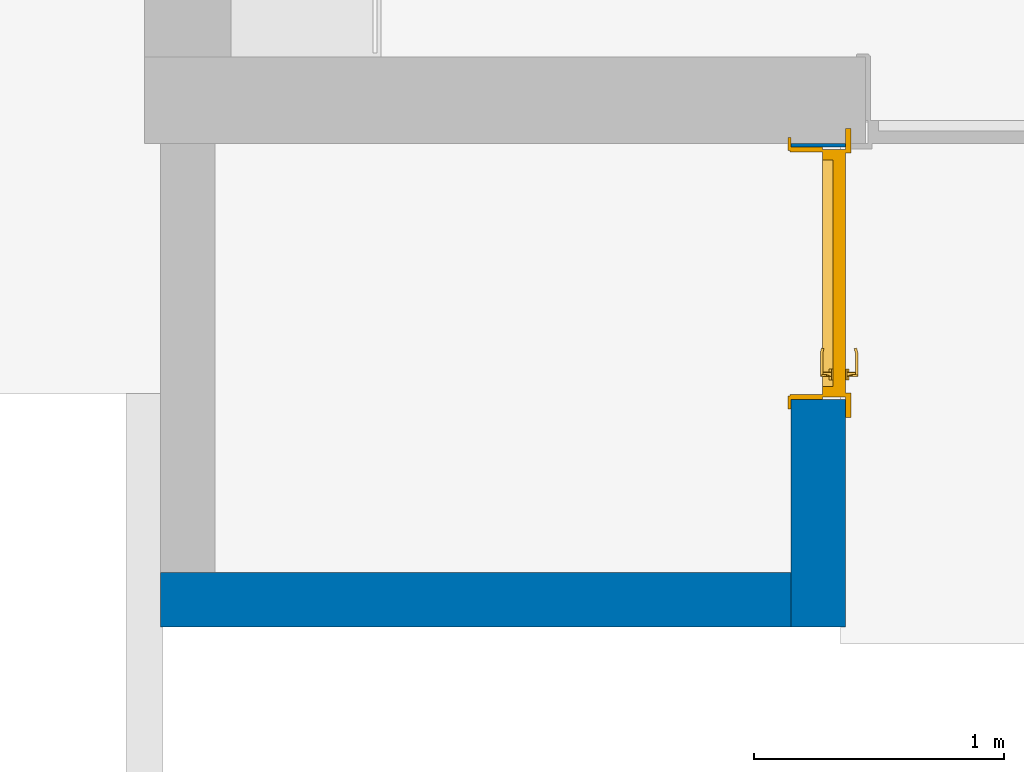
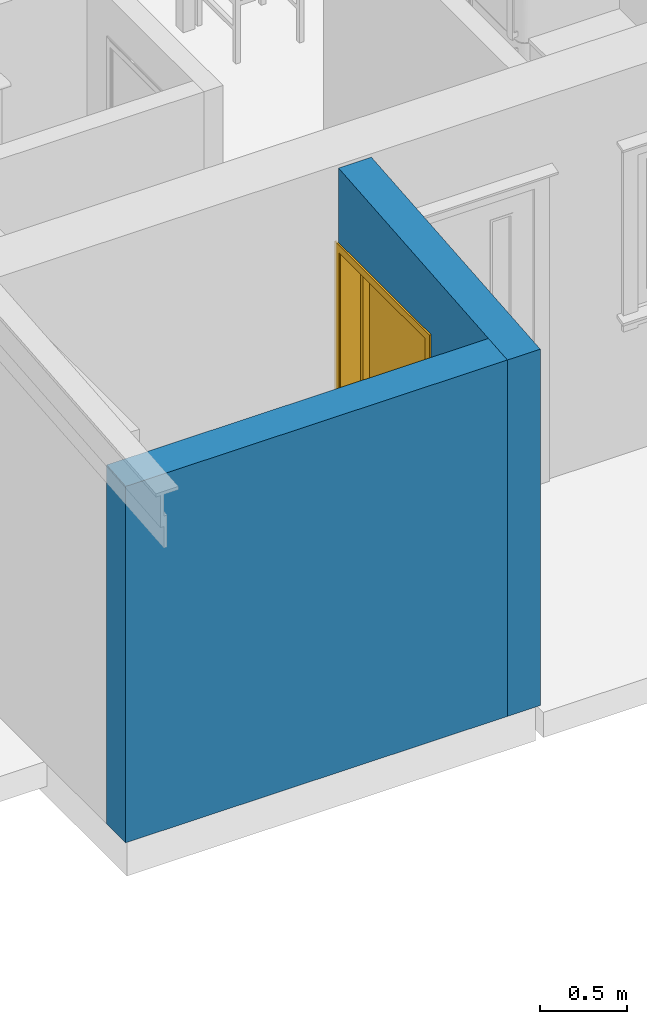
# One storey, part 10 of 65: 2 walls, 1 door, 1 opening.
"""IFC2X3 building model written with IfcOpenShell, lengths in millimetres."""

from ifc_helpers import new_model, entity, si_unit, converted_unit, direction, frame, frame_2d, origin, place, context, subcontext, project, spatial, polyline, rectangle, extrude, clip, bounded_halfspace, faceted_brep, source, transform, mapped, material, material_list, layer, layer_set, layer_usage, type_object, type_shapes, element, fill, save


model = new_model("IFC2X3")

# Units and contexts
model_context = context("Model", 3, precision=0.01, world=origin(), true_north=direction((0.0, 1.0)))
body_context = subcontext(model_context, "Body", "Model", "MODEL_VIEW")
ifc_project = project(units=[si_unit("LENGTHUNIT", "METRE", prefix="MILLI"), si_unit("AREAUNIT", "SQUARE_METRE"), si_unit("VOLUMEUNIT", "CUBIC_METRE"), converted_unit("PLANEANGLEUNIT", "DEGREE", entity("IfcPlaneAngleMeasure", 0.017453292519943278), si_unit("PLANEANGLEUNIT", "RADIAN"), dimensions=[0, 0, 0, 0, 0, 0, 0])], contexts=[model_context])

# Site, building, storey
site_placement = place(None, origin())
site = spatial("IfcSite", under=ifc_project, at=site_placement, Name="Default", CompositionType="ELEMENT")
building_placement = place(site_placement, origin())
building = spatial("IfcBuilding", under=site, at=building_placement, CompositionType="ELEMENT")
storey_placement = place(building_placement, origin())
storey = spatial("IfcBuildingStorey", under=building, at=storey_placement, Name="Et. 1", CompositionType="ELEMENT", Elevation=0.0)

# Wall, opening, door
ifc_material_1 = material(Name="Vegg - Stående Kledning_smal - HVIT")
ifc_layer_1 = layer(ifc_material_1, 19.0)
ifc_material_2 = material(Name="Vegg - Stender - Isolert")
ifc_layer_2 = layer(ifc_material_2, 198.0)
ifc_layer_set = layer_set([ifc_layer_1, ifc_layer_2], Name="Basic Wall:23-Kv(sm)TIG-19_Bod")
ifc_layer_usage_1 = layer_usage(ifc_layer_set, "AXIS2", "NEGATIVE", 108.5)
wall_type = type_object("IfcWallType", Name="Basic Wall:23-Kv(sm)TIG-19_Bod", PredefinedType="STANDARD", material=ifc_layer_set)
wall_1_placement = place(storey_placement, frame((24699.00958675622, 9408.18095768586, 0.0), z_axis=(0.0, 0.0, 1.0), x_axis=(0.0, -1.0, 0.0)))
wall_1 = element("IfcWallStandardCase", 1, at=wall_1_placement, inside=storey, type_object=wall_type, material=ifc_layer_usage_1, Name="Basic Wall:23-Kv(sm)TIG-19_Bod", context=body_context, shape_type="Clipping", body=[
    clip(extrude(rectangle(XDim=1932.0000000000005, YDim=216.9999999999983, at=frame_2d((966.0000000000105, 2.0463630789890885e-12), x_axis=(1.0, 0.0))), origin(), (0.0, 0.0, 1.0), 2657.639611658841), bounded_halfspace(frame((0.0, -108.4999999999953, 2657.639611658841), z_axis=(0.08715574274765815, 0.0, 0.9961946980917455), x_axis=(0.0, 1.0, 0.0)), False, frame((0.0, -108.4999999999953, 2657.639611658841)), polyline([(0.0, 0.0), (1715.0, 0.0), (1932.0, 0.0), (1932.0, 217.0), (0.0, 217.0), (0.0, 0.0)]))),
])
opening_placement = place(wall_1_placement, frame((13.0, -108.50000000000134, 0.0)))
opening = element("IfcOpeningElement", 2, at=opening_placement, cuts=wall_1, Name="YD Hel omramming:10x21M:1", ObjectType="Opening", context=body_context, shape_type="SweptSolid", body=[
    extrude(rectangle(XDim=1010.00000000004, YDim=2100.0000000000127, at=frame_2d((1050.0000000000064, 505.00000000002), x_axis=(0.0, -1.0))), frame((0.0, 0.0, 0.0), z_axis=(0.0, 1.0, 0.0), x_axis=(0.0, 0.0, 1.0)), (0.0, 0.0, 1.0), 217.0),
])
ifc_material_3 = material(Name="Karm")
ifc_material_4 = material(Name="Dør - Håndtak")
ifc_material_5 = material(Name="Dør - Dørblad")
ifc_material_6 = material(Name="Dør - Terskel - Eik")
ifc_material_list = material_list([ifc_material_3, ifc_material_4, ifc_material_5, ifc_material_6])
door_style = type_object("IfcDoorStyle", Name="YD Hel omramming:10x21M", ConstructionType="NOTDEFINED", OperationType="SINGLE_SWING_LEFT", ParameterTakesPrecedence=False, Sizeable=False, material=ifc_material_list)
shared_shape = source(origin(), body_context, "Body", "Brep", [
    faceted_brep([(1113.0, 284.5268751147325, 2160.8011105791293), (1113.0, 289.44443697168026, 2179.153701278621), (1113.0, 217.0, 2198.56512966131), (1113.0, 217.0, 2178.894882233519), (-103.0, 284.5268751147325, 2160.8011105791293), (-103.0, 217.0, 2178.894882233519), (-103.0, 217.0, 2198.56512966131), (-103.0, 289.44443697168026, 2179.153701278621)], [[[0, 1, 2, 3]], [[4, 5, 6, 7]], [[1, 0, 4, 7]], [[2, 1, 7, 6]], [[3, 2, 6, 5]], [[0, 3, 5, 4]]]),
    faceted_brep([(25.0, 239.0, 2173.0), (985.0, 239.0, 2173.0), (985.0, 239.0, 2075.0), (25.0, 239.0, 2075.0), (25.0, 217.0, 2173.0), (25.0, 217.0, 2075.0), (985.0, 217.0, 2075.0), (985.0, 217.0, 2173.0)], [[[0, 1, 2, 3]], [[4, 5, 6, 7]], [[1, 0, 4, 7]], [[2, 1, 7, 6]], [[3, 2, 6, 5]], [[0, 3, 5, 4]]]),
    faceted_brep([(-73.0, 239.0, 2179.153701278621), (25.0, 239.0, 2179.153701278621), (25.0, 239.0, 0.0), (-73.0, 239.0, 0.0), (-73.0, 217.0, 2179.153701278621), (25.0, 217.0, 2179.153701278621), (25.0, 217.0, 0.0), (-73.0, 217.0, 0.0)], [[[0, 1, 2, 3]], [[1, 0, 4, 5]], [[2, 1, 5, 6]], [[3, 2, 6, 7]], [[0, 3, 7, 4]], [[4, 7, 6, 5]]]),
    faceted_brep([(985.0, 217.0, 2179.153701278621), (985.0, 217.0, 0.0), (1083.0, 217.0, 0.0), (1083.0, 217.0, 2179.153701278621), (1083.0, 239.0, 2179.153701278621), (985.0, 239.0, 2179.153701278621), (1083.0, 239.0, 0.0), (985.0, 239.0, 0.0)], [[[0, 1, 2, 3]], [[4, 5, 0, 3]], [[6, 4, 3, 2]], [[7, 6, 2, 1]], [[5, 7, 1, 0]], [[5, 4, 6, 7]]]),
    faceted_brep([(910.0, 117.0, 1061.0), (822.4876577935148, 117.0, 1061.0), (804.4308821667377, 121.8382984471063, 1061.0), (807.019072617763, 131.49755670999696, 1061.0), (823.8041827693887, 127.0, 1061.0), (910.0, 127.0, 1061.0), (907.6706285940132, 127.0, 1061.306667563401), (823.8041827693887, 127.0, 1079.0), (910.0, 127.0, 1079.0), (907.6706285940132, 127.0, 1078.6933324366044), (905.499999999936, 127.0, 1077.7942286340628), (903.636038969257, 127.0, 1076.3639610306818), (902.205771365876, 127.0, 1074.500000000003), (901.3066675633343, 127.0, 1072.3293714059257), (901.0, 127.0, 1070.0), (901.3066675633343, 127.0, 1067.6706285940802), (902.205771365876, 127.0, 1065.5000000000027), (903.636038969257, 127.0, 1063.6360389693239), (905.499999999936, 127.0, 1062.2057713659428), (910.0, 117.0, 1079.0), (807.019072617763, 131.49755670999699, 1079.0), (804.4308821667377, 121.83829844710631, 1079.0), (822.4876577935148, 117.0, 1079.0), (919.0, 117.0, 1070.0), (918.7739335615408, 117.0, 1072.0045173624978), (918.1082066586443, 117.0, 1073.9060190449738), (917.0361879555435, 117.0, 1075.6117785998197), (915.6117785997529, 117.0, 1077.0361879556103), (913.9060190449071, 117.0, 1078.1082066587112), (912.0038376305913, 117.0, 1078.7740888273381), (912.0038376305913, 117.0, 1061.2259111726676), (913.9060190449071, 117.0, 1061.8917933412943), (915.6117785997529, 117.0, 1062.9638120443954), (917.0361879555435, 117.0, 1064.3882214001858), (918.1082066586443, 117.0, 1066.0939809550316), (918.7739335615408, 117.0, 1067.9954826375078), (918.6933324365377, 161.0, 1072.3293714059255), (919.0, 161.0, 1070.0), (917.7942286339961, 161.0, 1074.5000000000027), (916.3639610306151, 161.0, 1076.3639610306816), (914.4999999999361, 161.0, 1077.7942286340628), (912.3293714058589, 161.0, 1078.6933324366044), (907.6706285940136, 161.0, 1078.6933324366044), (910.0, 161.0, 1079.0), (905.4999999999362, 161.0, 1077.7942286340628), (903.6360389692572, 161.0, 1076.3639610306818), (902.2057713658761, 161.0, 1074.500000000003), (901.3066675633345, 161.0, 1072.3293714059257), (901.0, 161.0, 1070.0), (901.3066675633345, 161.0, 1067.67062859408), (902.2057713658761, 161.0, 1065.5000000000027), (903.6360389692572, 161.0, 1063.6360389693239), (905.4999999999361, 161.0, 1062.2057713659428), (907.6706285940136, 161.0, 1061.306667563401), (910.0, 161.0, 1061.0), (912.3293714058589, 161.0, 1061.306667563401), (914.4999999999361, 161.0, 1062.2057713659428), (916.363961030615, 161.0, 1063.6360389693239), (918.6933324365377, 161.0, 1067.6706285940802), (917.7942286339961, 161.0, 1065.500000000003), (899.0, 161.0, 1089.0525588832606), (894.443650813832, 161.0, 1085.556349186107), (904.3059810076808, 161.0, 1091.2503681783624), (910.0, 161.0, 1092.0), (915.6940189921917, 161.0, 1091.2503681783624), (921.0, 161.0, 1089.0525588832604), (925.5563491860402, 161.0, 1085.556349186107), (929.0525588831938, 161.0, 1081.0), (931.2503681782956, 161.0, 1075.6940189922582), (932.0, 161.0, 1070.0), (931.2503681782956, 161.0, 1064.3059810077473), (929.0525588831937, 161.0, 1059.0), (925.55634918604, 161.0, 1054.4436508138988), (921.0, 161.0, 1050.947441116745), (915.6940189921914, 161.0, 1048.7496318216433), (910.0, 161.0, 1048.0), (904.3059810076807, 161.0, 1048.7496318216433), (899.0, 161.0, 1050.9474411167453), (894.443650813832, 161.0, 1054.4436508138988), (890.9474411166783, 161.0, 1059.0), (888.7496318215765, 161.0, 1064.3059810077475), (888.0, 161.0, 1070.0), (888.7496318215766, 161.0, 1075.6940189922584), (890.9474411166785, 161.0, 1081.0), (904.3059810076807, 167.0, 1048.7496318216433), (899.0, 167.0, 1050.9474411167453), (894.443650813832, 167.0, 1054.4436508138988), (890.9474411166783, 167.0, 1059.0), (888.7496318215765, 167.0, 1064.3059810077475), (888.0, 167.0, 1070.0), (888.7496318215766, 167.0, 1075.6940189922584), (890.9474411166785, 167.0, 1081.0), (894.443650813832, 167.0, 1085.556349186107), (899.0, 167.0, 1089.0525588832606), (904.3059810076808, 167.0, 1091.2503681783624), (910.0, 167.0, 1092.0), (915.6940189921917, 167.0, 1091.2503681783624), (921.0, 167.0, 1089.0525588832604), (925.5563491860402, 167.0, 1085.556349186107), (929.0525588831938, 167.0, 1081.0), (931.2503681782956, 167.0, 1075.6940189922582), (932.0, 167.0, 1070.0), (931.2503681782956, 167.0, 1064.3059810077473), (929.0525588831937, 167.0, 1059.0), (925.55634918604, 167.0, 1054.4436508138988), (921.0, 167.0, 1050.947441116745), (915.6940189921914, 167.0, 1048.7496318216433), (910.0, 167.0, 1048.0)], [[[0, 1, 2, 3, 4, 5]], [[6, 5, 4, 7, 8, 9, 10, 11, 12, 13, 14, 15, 16, 17, 18]], [[19, 8, 7, 20, 21, 22]], [[23, 24, 25, 26, 27, 28, 29, 19, 22, 1, 0, 30, 31, 32, 33, 34, 35]], [[3, 2, 21, 20]], [[7, 4, 3, 20]], [[1, 22, 21, 2]], [[36, 24, 37]], [[36, 8, 25]], [[38, 39, 8]], [[40, 8, 39]], [[40, 41, 8]], [[38, 8, 36]], [[8, 19, 29]], [[36, 25, 24]], [[24, 23, 37]], [[8, 28, 27]], [[27, 26, 8]], [[8, 26, 25]], [[8, 29, 28]], [[42, 9, 8, 43]], [[44, 10, 9, 42]], [[12, 11, 45, 46]], [[46, 47, 13, 12]], [[44, 45, 11, 10]], [[48, 14, 13, 47]], [[43, 8, 41]], [[49, 15, 14, 48]], [[50, 16, 15, 49]], [[18, 17, 51, 52]], [[52, 53, 6, 18]], [[5, 6, 53, 54]], [[50, 51, 17, 16]], [[5, 30, 0]], [[55, 56, 5]], [[56, 57, 5]], [[58, 5, 59]], [[58, 34, 5]], [[5, 57, 59]], [[37, 35, 58]], [[31, 30, 5]], [[32, 31, 5]], [[34, 33, 5]], [[33, 32, 5]], [[58, 35, 34]], [[37, 23, 35]], [[55, 5, 54]], [[44, 42, 60]], [[61, 44, 60]], [[44, 61, 45]], [[42, 62, 60]], [[62, 42, 43]], [[62, 43, 63]], [[41, 63, 43]], [[63, 41, 64]], [[41, 40, 64]], [[65, 64, 40]], [[39, 65, 40]], [[65, 39, 66]], [[38, 66, 39]], [[67, 66, 38]], [[36, 67, 38]], [[68, 67, 36]], [[68, 36, 37]], [[68, 37, 69]], [[69, 37, 58]], [[69, 58, 70]], [[70, 58, 59]], [[70, 59, 71]], [[72, 71, 59]], [[72, 59, 57]], [[57, 73, 72]], [[57, 56, 73]], [[74, 73, 56]], [[55, 74, 56]], [[55, 75, 74]], [[75, 55, 54]], [[54, 76, 75]], [[53, 76, 54]], [[76, 53, 77]], [[52, 77, 53]], [[78, 77, 52]], [[78, 52, 51]], [[78, 51, 79]], [[79, 51, 50]], [[79, 50, 80]], [[49, 80, 50]], [[81, 80, 49]], [[49, 48, 81]], [[48, 82, 81]], [[82, 48, 47]], [[82, 47, 83]], [[47, 46, 83]], [[45, 83, 46]], [[61, 83, 45]], [[84, 85, 86, 87, 88, 89, 90, 91, 92, 93, 94, 95, 96, 97, 98, 99, 100, 101, 102, 103, 104, 105, 106, 107]], [[100, 68, 69, 101]], [[99, 67, 68, 100]], [[65, 66, 98, 97]], [[99, 98, 66, 67]], [[64, 65, 97, 96]], [[63, 64, 96, 95]], [[94, 62, 63, 95]], [[93, 60, 62, 94]], [[83, 61, 92, 91]], [[93, 92, 61, 60]], [[82, 83, 91, 90]], [[81, 82, 90, 89]], [[88, 80, 81, 89]], [[87, 79, 80, 88]], [[77, 78, 86, 85]], [[87, 86, 78, 79]], [[76, 77, 85, 84]], [[75, 76, 84, 107]], [[106, 74, 75, 107]], [[105, 73, 74, 106]], [[71, 72, 104, 103]], [[105, 104, 72, 73]], [[70, 71, 103, 102]], [[69, 70, 102, 101]]]),
    faceted_brep([(899.0, 152.0, 1019.0525588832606), (894.443650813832, 152.0, 1015.556349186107), (890.9474411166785, 152.0, 1011.0), (888.7496318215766, 152.0, 1005.6940189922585), (888.0, 152.0, 1000.0), (888.7496318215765, 152.0, 994.3059810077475), (890.9474411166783, 152.0, 989.0), (894.443650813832, 152.0, 984.4436508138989), (899.0, 152.0, 980.9474411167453), (904.3059810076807, 152.0, 978.7496318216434), (910.0, 152.0, 978.0), (915.6940189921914, 152.0, 978.7496318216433), (921.0, 152.0, 980.9474411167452), (925.55634918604, 152.0, 984.4436508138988), (929.0525588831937, 152.0, 989.0), (931.2503681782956, 152.0, 994.3059810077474), (932.0, 152.0, 1000.0), (931.2503681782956, 152.0, 1005.6940189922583), (929.0525588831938, 152.0, 1011.0), (925.5563491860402, 152.0, 1015.5563491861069), (921.0, 152.0, 1019.0525588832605), (915.6940189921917, 152.0, 1021.2503681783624), (910.0, 152.0, 1022.0), (904.3059810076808, 152.0, 1021.2503681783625), (915.6940189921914, 167.0, 978.7496318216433), (910.0, 167.0, 978.0), (904.3059810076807, 167.0, 978.7496318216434), (899.0, 167.0, 980.9474411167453), (894.443650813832, 167.0, 984.4436508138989), (890.9474411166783, 167.0, 989.0), (888.7496318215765, 167.0, 994.3059810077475), (888.0, 167.0, 1000.0), (888.7496318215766, 167.0, 1005.6940189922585), (890.9474411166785, 167.0, 1011.0), (894.443650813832, 167.0, 1015.556349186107), (899.0, 167.0, 1019.0525588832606), (904.3059810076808, 167.0, 1021.2503681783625), (910.0, 167.0, 1022.0), (915.6940189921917, 167.0, 1021.2503681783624), (921.0, 167.0, 1019.0525588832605), (925.5563491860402, 167.0, 1015.5563491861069), (929.0525588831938, 167.0, 1011.0), (931.2503681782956, 167.0, 1005.6940189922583), (932.0, 167.0, 1000.0), (931.2503681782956, 167.0, 994.3059810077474), (929.0525588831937, 167.0, 989.0), (925.55634918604, 167.0, 984.4436508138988), (921.0, 167.0, 980.9474411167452)], [[[0, 1, 2, 3, 4, 5, 6, 7, 8, 9, 10, 11, 12, 13, 14, 15, 16, 17, 18, 19, 20, 21, 22, 23]], [[24, 25, 26, 27, 28, 29, 30, 31, 32, 33, 34, 35, 36, 37, 38, 39, 40, 41, 42, 43, 44, 45, 46, 47]], [[42, 17, 16, 43]], [[41, 18, 17, 42]], [[20, 19, 40, 39]], [[41, 40, 19, 18]], [[21, 20, 39, 38]], [[22, 21, 38, 37]], [[36, 23, 22, 37]], [[35, 0, 23, 36]], [[2, 1, 34, 33]], [[35, 34, 1, 0]], [[3, 2, 33, 32]], [[4, 3, 32, 31]], [[30, 5, 4, 31]], [[29, 6, 5, 30]], [[8, 7, 28, 27]], [[29, 28, 7, 6]], [[9, 8, 27, 26]], [[10, 9, 26, 25]], [[24, 11, 10, 25]], [[47, 12, 11, 24]], [[14, 13, 46, 45]], [[46, 13, 12, 47]], [[15, 44, 43, 16]], [[15, 14, 45, 44]]]),
    faceted_brep([(899.0, 223.0, 1089.0525588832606), (907.6706285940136, 223.0, 1078.6933324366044), (905.4999999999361, 223.0, 1077.7942286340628), (894.443650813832, 223.0, 1085.556349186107), (904.3059810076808, 223.0, 1091.2503681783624), (910.0, 223.0, 1079.0), (910.0, 223.0, 1092.0), (912.3293714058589, 223.0, 1078.6933324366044), (915.6940189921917, 223.0, 1091.2503681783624), (914.4999999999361, 223.0, 1077.7942286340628), (921.0, 223.0, 1089.0525588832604), (916.363961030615, 223.0, 1076.3639610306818), (925.5563491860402, 223.0, 1085.556349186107), (917.7942286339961, 223.0, 1074.5000000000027), (929.0525588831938, 223.0, 1081.0), (918.6933324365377, 223.0, 1072.3293714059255), (931.2503681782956, 223.0, 1075.6940189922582), (919.0, 223.0, 1070.0), (932.0, 223.0, 1070.0), (918.6933324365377, 223.0, 1067.6706285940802), (931.2503681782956, 223.0, 1064.3059810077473), (917.7942286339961, 223.0, 1065.500000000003), (929.0525588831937, 223.0, 1059.0), (925.55634918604, 223.0, 1054.4436508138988), (916.363961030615, 223.0, 1063.6360389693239), (921.0, 223.0, 1050.947441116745), (914.4999999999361, 223.0, 1062.2057713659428), (915.6940189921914, 223.0, 1048.7496318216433), (912.3293714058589, 223.0, 1061.306667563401), (910.0, 223.0, 1048.0), (910.0, 223.0, 1061.0), (904.3059810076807, 223.0, 1048.7496318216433), (907.6706285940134, 223.0, 1061.306667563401), (899.0, 223.0, 1050.9474411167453), (905.4999999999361, 223.0, 1062.2057713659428), (894.443650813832, 223.0, 1054.4436508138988), (903.6360389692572, 223.0, 1063.6360389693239), (890.9474411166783, 223.0, 1059.0), (902.2057713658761, 223.0, 1065.5000000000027), (888.7496318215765, 223.0, 1064.3059810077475), (901.3066675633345, 223.0, 1067.67062859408), (888.0, 223.0, 1070.0), (901.0, 223.0, 1070.0), (888.7496318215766, 223.0, 1075.6940189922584), (901.3066675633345, 223.0, 1072.3293714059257), (890.9474411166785, 223.0, 1081.0), (903.6360389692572, 223.0, 1076.3639610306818), (902.2057713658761, 223.0, 1074.500000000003), (910.0, 217.0, 1048.0), (915.6940189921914, 217.0, 1048.7496318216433), (921.0, 217.0, 1050.947441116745), (925.55634918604, 217.0, 1054.4436508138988), (929.0525588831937, 217.0, 1059.0), (931.2503681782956, 217.0, 1064.3059810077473), (932.0, 217.0, 1070.0), (931.2503681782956, 217.0, 1075.6940189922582), (929.0525588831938, 217.0, 1081.0), (925.5563491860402, 217.0, 1085.556349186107), (921.0, 217.0, 1089.0525588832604), (915.6940189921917, 217.0, 1091.2503681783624), (910.0, 217.0, 1092.0), (904.3059810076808, 217.0, 1091.2503681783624), (899.0, 217.0, 1089.0525588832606), (894.443650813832, 217.0, 1085.556349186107), (890.9474411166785, 217.0, 1081.0), (888.7496318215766, 217.0, 1075.6940189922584), (888.0, 217.0, 1070.0), (888.7496318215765, 217.0, 1064.3059810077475), (890.9474411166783, 217.0, 1059.0), (894.443650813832, 217.0, 1054.4436508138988), (899.0, 217.0, 1050.9474411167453), (904.3059810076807, 217.0, 1048.7496318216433), (918.7739335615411, 267.0, 1072.0045173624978), (918.1082066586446, 267.0, 1073.9060190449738), (910.0, 257.0, 1079.0), (912.0038376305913, 267.0, 1078.7740888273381), (910.0, 267.0, 1079.0), (919.0, 267.0, 1070.0), (915.6117785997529, 267.0, 1077.0361879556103), (913.9060190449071, 267.0, 1078.1082066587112), (917.0361879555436, 267.0, 1075.61177859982), (907.6706285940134, 257.0, 1078.6933324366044), (905.499999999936, 257.0, 1077.7942286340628), (903.6360389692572, 257.0, 1076.3639610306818), (902.2057713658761, 257.0, 1074.500000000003), (901.3066675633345, 257.0, 1072.3293714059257), (901.0, 257.0, 1070.0), (901.3066675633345, 257.0, 1067.6706285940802), (902.205771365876, 257.0, 1065.5000000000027), (903.6360389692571, 257.0, 1063.6360389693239), (905.499999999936, 257.0, 1062.2057713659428), (907.6706285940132, 257.0, 1061.306667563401), (910.0, 257.0, 1061.0), (910.0, 267.0, 1061.0), (912.0038376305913, 267.0, 1061.2259111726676), (918.1082066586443, 267.0, 1066.0939809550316), (918.7739335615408, 267.0, 1067.9954826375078), (913.9060190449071, 267.0, 1061.8917933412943), (915.6117785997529, 267.0, 1062.9638120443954), (917.0361879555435, 267.0, 1064.3882214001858), (823.8041827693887, 257.0, 1061.0), (807.019072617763, 252.50244329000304, 1061.0), (804.4308821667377, 262.1617015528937, 1061.0), (822.4876577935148, 267.0, 1061.0), (823.8041827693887, 257.0, 1079.0), (822.4876577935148, 267.0, 1079.0), (804.4308821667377, 262.1617015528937, 1079.0), (807.019072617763, 252.50244329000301, 1079.0)], [[[0, 1, 2]], [[0, 2, 3]], [[0, 4, 1]], [[5, 1, 4]], [[6, 5, 4]], [[5, 6, 7]], [[8, 7, 6]], [[8, 9, 7]], [[9, 8, 10]], [[9, 10, 11]], [[12, 11, 10]], [[11, 12, 13]], [[13, 12, 14]], [[13, 14, 15]], [[15, 14, 16]], [[17, 15, 16]], [[18, 17, 16]], [[19, 17, 18]], [[20, 19, 18]], [[21, 19, 20]], [[22, 21, 20]], [[21, 22, 23]], [[24, 21, 23]], [[23, 25, 24]], [[25, 26, 24]], [[26, 25, 27]], [[26, 27, 28]], [[27, 29, 28]], [[30, 28, 29]], [[29, 31, 30]], [[30, 31, 32]], [[33, 32, 31]], [[32, 33, 34]], [[34, 33, 35]], [[36, 34, 35]], [[37, 36, 35]], [[38, 36, 37]], [[39, 38, 37]], [[38, 39, 40]], [[40, 39, 41]], [[41, 42, 40]], [[41, 43, 42]], [[44, 42, 43]], [[45, 44, 43]], [[46, 45, 3]], [[45, 47, 44]], [[47, 45, 46]], [[46, 3, 2]], [[48, 49, 50, 51, 52, 53, 54, 55, 56, 57, 58, 59, 60, 61, 62, 63, 64, 65, 66, 67, 68, 69, 70, 71]], [[54, 18, 16, 55]], [[55, 16, 14, 56]], [[58, 57, 12, 10]], [[12, 57, 56, 14]], [[59, 58, 10, 8]], [[59, 8, 6, 60]], [[60, 6, 4, 61]], [[61, 4, 0, 62]], [[64, 63, 3, 45]], [[3, 63, 62, 0]], [[65, 64, 45, 43]], [[65, 43, 41, 66]], [[66, 41, 39, 67]], [[67, 39, 37, 68]], [[70, 69, 35, 33]], [[35, 69, 68, 37]], [[71, 70, 33, 31]], [[71, 31, 29, 48]], [[48, 29, 27, 49]], [[49, 27, 25, 50]], [[52, 51, 23, 22]], [[23, 51, 50, 25]], [[53, 52, 22, 20]], [[53, 20, 18, 54]], [[17, 72, 15]], [[73, 74, 15]], [[74, 11, 13]], [[11, 74, 9]], [[74, 7, 9]], [[15, 74, 13]], [[75, 76, 74]], [[72, 73, 15]], [[17, 77, 72]], [[78, 79, 74]], [[74, 80, 78]], [[73, 80, 74]], [[79, 75, 74]], [[5, 74, 81, 1]], [[1, 81, 82, 2]], [[47, 46, 83, 84]], [[85, 44, 47, 84]], [[83, 46, 2, 82]], [[44, 85, 86, 42]], [[7, 74, 5]], [[42, 86, 87, 40]], [[40, 87, 88, 38]], [[34, 36, 89, 90]], [[91, 32, 34, 90]], [[30, 32, 91, 92]], [[89, 36, 38, 88]], [[93, 94, 92]], [[92, 26, 28]], [[92, 24, 26]], [[21, 92, 19]], [[92, 95, 19]], [[21, 24, 92]], [[19, 96, 17]], [[92, 94, 97]], [[92, 97, 98]], [[92, 99, 95]], [[92, 98, 99]], [[95, 96, 19]], [[96, 77, 17]], [[30, 92, 28]], [[92, 100, 101, 102, 103, 93]], [[100, 92, 91, 90, 89, 88, 87, 86, 85, 84, 83, 82, 81, 74, 104]], [[104, 74, 76, 105, 106, 107]], [[106, 102, 101, 107]], [[101, 100, 104, 107]], [[106, 105, 103, 102]], [[73, 72, 77, 96, 95, 99, 98, 97, 94, 93, 103, 105, 76, 75, 79, 78, 80]]]),
    faceted_brep([(904.3059810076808, 232.0, 1021.2503681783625), (910.0, 232.0, 1022.0), (915.6940189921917, 232.0, 1021.2503681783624), (921.0, 232.0, 1019.0525588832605), (925.5563491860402, 232.0, 1015.5563491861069), (929.0525588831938, 232.0, 1011.0), (931.2503681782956, 232.0, 1005.6940189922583), (932.0, 232.0, 1000.0), (931.2503681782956, 232.0, 994.3059810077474), (929.0525588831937, 232.0, 989.0), (925.55634918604, 232.0, 984.4436508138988), (921.0, 232.0, 980.9474411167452), (915.6940189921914, 232.0, 978.7496318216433), (910.0, 232.0, 978.0), (904.3059810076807, 232.0, 978.7496318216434), (899.0, 232.0, 980.9474411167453), (894.443650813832, 232.0, 984.4436508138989), (890.9474411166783, 232.0, 989.0), (888.7496318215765, 232.0, 994.3059810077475), (888.0, 232.0, 1000.0), (888.7496318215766, 232.0, 1005.6940189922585), (890.9474411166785, 232.0, 1011.0), (894.443650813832, 232.0, 1015.556349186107), (899.0, 232.0, 1019.0525588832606), (904.3059810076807, 217.0, 978.7496318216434), (910.0, 217.0, 978.0), (915.6940189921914, 217.0, 978.7496318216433), (921.0, 217.0, 980.9474411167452), (925.55634918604, 217.0, 984.4436508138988), (929.0525588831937, 217.0, 989.0), (931.2503681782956, 217.0, 994.3059810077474), (932.0, 217.0, 1000.0), (931.2503681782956, 217.0, 1005.6940189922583), (929.0525588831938, 217.0, 1011.0), (925.5563491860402, 217.0, 1015.5563491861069), (921.0, 217.0, 1019.0525588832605), (915.6940189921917, 217.0, 1021.2503681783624), (910.0, 217.0, 1022.0), (904.3059810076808, 217.0, 1021.2503681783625), (899.0, 217.0, 1019.0525588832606), (894.443650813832, 217.0, 1015.556349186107), (890.9474411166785, 217.0, 1011.0), (888.7496318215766, 217.0, 1005.6940189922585), (888.0, 217.0, 1000.0), (888.7496318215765, 217.0, 994.3059810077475), (890.9474411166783, 217.0, 989.0), (894.443650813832, 217.0, 984.4436508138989), (899.0, 217.0, 980.9474411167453)], [[[0, 1, 2, 3, 4, 5, 6, 7, 8, 9, 10, 11, 12, 13, 14, 15, 16, 17, 18, 19, 20, 21, 22, 23]], [[24, 25, 26, 27, 28, 29, 30, 31, 32, 33, 34, 35, 36, 37, 38, 39, 40, 41, 42, 43, 44, 45, 46, 47]], [[31, 7, 6, 32]], [[32, 6, 5, 33]], [[35, 34, 4, 3]], [[4, 34, 33, 5]], [[36, 35, 3, 2]], [[36, 2, 1, 37]], [[37, 1, 0, 38]], [[38, 0, 23, 39]], [[41, 40, 22, 21]], [[22, 40, 39, 23]], [[42, 41, 21, 20]], [[42, 20, 19, 43]], [[43, 19, 18, 44]], [[44, 18, 17, 45]], [[47, 46, 16, 15]], [[16, 46, 45, 17]], [[24, 47, 15, 14]], [[24, 14, 13, 25]], [[25, 13, 12, 26]], [[26, 12, 11, 27]], [[29, 28, 10, 9]], [[27, 11, 10, 28]], [[7, 31, 30, 8]], [[29, 9, 8, 30]]]),
    faceted_brep([(958.0, 217.0, 0.0), (1000.0, 217.0, 0.0), (1000.0, 125.0, 0.0), (958.0, 125.0, 0.0), (958.0, 217.0, 2048.0), (52.0, 217.0, 2048.0), (52.0, 217.0, 0.0), (10.0, 217.0, 0.0), (10.0, 217.0, 2090.0), (1000.0, 217.0, 2090.0), (1000.0, 125.0, 2090.0), (10.0, 125.0, 2090.0), (10.0, 125.0, 0.0), (52.0, 125.0, 0.0), (52.0, 125.0, 2048.0), (958.0, 125.0, 2048.0)], [[[0, 1, 2, 3]], [[1, 0, 4, 5, 6, 7, 8, 9]], [[2, 1, 9, 10]], [[3, 2, 10, 11, 12, 13, 14, 15]], [[0, 3, 15, 4]], [[10, 9, 8, 11]], [[4, 15, 14, 5]], [[6, 13, 12, 7]], [[11, 8, 7, 12]], [[5, 14, 13, 6]]]),
    faceted_brep([(52.0, 167.0, 5.0), (958.0, 167.0, 5.0), (958.0, 167.0, 2048.0), (52.0, 167.0, 2048.0), (52.0, 217.0, 5.0), (52.0, 217.0, 2048.0), (958.0, 217.0, 2048.0), (958.0, 217.0, 5.0)], [[[0, 1, 2, 3]], [[4, 5, 6, 7]], [[1, 0, 4, 7]], [[2, 1, 7, 6]], [[3, 2, 6, 5]], [[0, 3, 5, 4]]]),
    faceted_brep([(958.0, 217.0, 5.0), (958.0, 167.0, 5.0), (958.0, 167.0, 15.0), (958.0, 125.0, 15.0), (958.0, 125.0, 0.0), (958.0, 217.0, 0.0), (52.0, 217.0, 5.0), (52.0, 217.0, 0.0), (52.0, 125.0, 0.0), (52.0, 125.0, 15.0), (52.0, 167.0, 15.0), (52.0, 167.0, 5.0)], [[[0, 1, 2, 3, 4, 5]], [[6, 7, 8, 9, 10, 11]], [[1, 0, 6, 11]], [[2, 1, 11, 10]], [[3, 2, 10, 9]], [[4, 3, 9, 8]], [[5, 4, 8, 7]], [[0, 5, 7, 6]]]),
    faceted_brep([(19.828902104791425, 125.0, 0.0), (19.828902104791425, -5.0, 0.0), (14.828902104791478, -5.0, 0.0), (14.828902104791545, -12.0, 0.0), (-37.17109789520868, -12.0, 0.0), (-37.17109789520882, 0.0, 0.0), (0.0, 0.0, 0.0), (0.0, 125.0, 0.0), (19.828902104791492, 125.0, 2080.171097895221), (19.828902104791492, -5.0, 2080.171097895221), (990.171097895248, -5.0, 2080.171097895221), (990.171097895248, -5.0, 0.0), (995.171097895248, -5.0, 0.0), (995.1710978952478, -5.0, 2085.171097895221), (14.828902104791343, -5.0, 2085.1710978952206), (0.0, 125.0, 2100.0), (0.0, 0.0, 2100.0), (1010.0, 125.0, 2100.0), (1010.0, 125.0, 0.0), (990.171097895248, 125.0, 0.0), (990.171097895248, 125.0, 2080.171097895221), (1010.0, 0.0, 2100.0), (1010.0, 0.0, 0.0), (1047.1710978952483, 0.0, 0.0), (1047.1710978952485, -12.0, 0.0), (995.171097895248, -12.0, 0.0), (-37.171097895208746, 0.0, 2137.1710978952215), (1047.1710978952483, 0.0, 2137.1710978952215), (14.82890210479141, -12.0, 2085.171097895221), (995.171097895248, -12.0, 2085.1710978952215), (1047.171097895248, -12.0, 2137.1710978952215), (-37.17109789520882, -12.0, 2137.1710978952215)], [[[0, 1, 2, 3, 4, 5, 6, 7]], [[1, 0, 8, 9]], [[1, 9, 10, 11, 12, 13, 14, 2]], [[15, 7, 6, 16]], [[0, 7, 15, 17, 18, 19, 20, 8]], [[9, 8, 20, 10]], [[17, 15, 16, 21]], [[19, 18, 22, 23, 24, 25, 12, 11]], [[11, 10, 20, 19]], [[18, 17, 21, 22]], [[5, 26, 27, 23, 22, 21, 16, 6]], [[28, 3, 2, 14]], [[4, 3, 28, 29, 25, 24, 30, 31]], [[5, 4, 31, 26]], [[29, 28, 14, 13]], [[27, 26, 31, 30]], [[25, 29, 13, 12]], [[23, 27, 30, 24]]]),
])
type_shapes(door_style, [shared_shape])
door_placement = place(opening_placement, origin())
door = element("IfcDoor", 3, at=door_placement, inside=storey, type_object=door_style, material=ifc_material_list, Name="YD Hel omramming:10x21M", OverallHeight=2100.0000000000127, OverallWidth=1010.00000000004, context=body_context, shape_type="MappedRepresentation", body=[
    mapped(shared_shape, transform((0.0, 0.0, 0.0), scale=1.0)),
])
fill(opening, door)

# Wall
ifc_layer_usage_2 = layer_usage(ifc_layer_set, "AXIS2", "NEGATIVE", 108.5)
wall_2_placement = place(storey_placement, frame((24590.50958675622, 7584.680957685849, 0.0), z_axis=(0.0, 0.0, 1.0), x_axis=(-1.0, 0.0, 0.0)))
element("IfcWallStandardCase", 4, at=wall_2_placement, inside=storey, type_object=wall_type, material=ifc_layer_usage_2, Name="Basic Wall:23-Kv(sm)TIG-19_Bod", context=body_context, shape_type="Clipping", body=[
    clip(extrude(rectangle(XDim=2521.0000000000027, YDim=217.00000000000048, at=frame_2d((1260.5000000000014, 0.0), x_axis=(-1.0, 0.0))), origin(), (0.0, 0.0, 1.0), 2507.5965537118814), bounded_halfspace(frame((0.0, -108.50000000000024, 2507.59655371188), z_axis=(0.0, 0.08715574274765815, 0.9961946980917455), x_axis=(-1.0, 0.0, 0.0)), False, frame((0.0, -108.50000000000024, 2507.59655371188)), polyline([(0.0, 0.0), (2521.0, 0.0), (2521.0, 217.0), (0.0, 217.0), (0.0, 0.0)]))),
])

save(model, "model.ifc")
